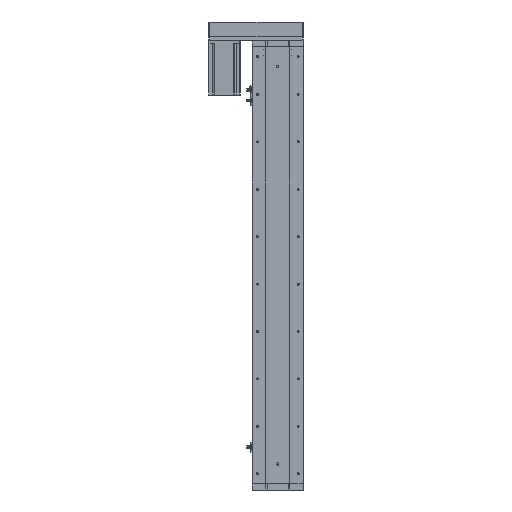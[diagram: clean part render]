
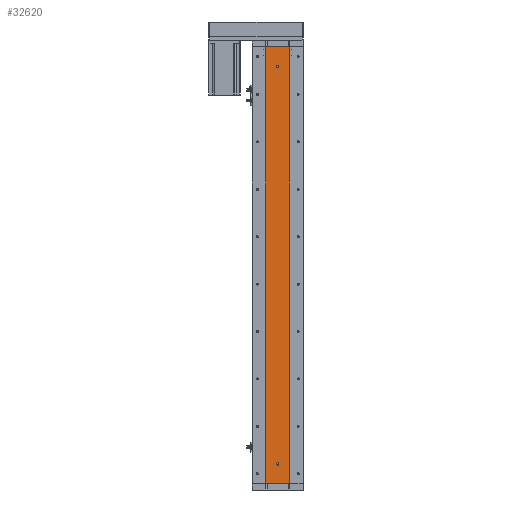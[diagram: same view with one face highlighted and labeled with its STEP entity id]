
A CAD part, left-side view. The second image highlights one B-rep face of the part: STEP entity #32620.
In plain terms, the highlighted planar face has unit normal (-1, 0, 0).
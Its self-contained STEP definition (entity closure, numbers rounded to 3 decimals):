
#244 = ORIENTED_EDGE ( 'NONE', *, *, #45910, .F. ) ;
#2626 = VERTEX_POINT ( 'NONE', #18674 ) ;
#2704 = VERTEX_POINT ( 'NONE', #43810 ) ;
#5352 = VERTEX_POINT ( 'NONE', #35743 ) ;
#6191 = AXIS2_PLACEMENT_3D ( 'NONE', #9829, #36427, #13645 ) ;
#6458 = FACE_OUTER_BOUND ( 'NONE', #14776, .T. ) ;
#6633 = DIRECTION ( 'NONE',  ( 0., 0., -1. ) ) ;
#6950 = CARTESIAN_POINT ( 'NONE',  ( -24.994, 0., 1056. ) ) ;
#8640 = ORIENTED_EDGE ( 'NONE', *, *, #28407, .T. ) ;
#8668 = VECTOR ( 'NONE', #25092, 1000. ) ;
#9404 = EDGE_LOOP ( 'NONE', ( #244, #45664 ) ) ;
#9782 = AXIS2_PLACEMENT_3D ( 'NONE', #21604, #48221, #25476 ) ;
#9829 = CARTESIAN_POINT ( 'NONE',  ( -24.994, 0., 50. ) ) ;
#9872 = DIRECTION ( 'NONE',  ( 1., 0., 0. ) ) ;
#10590 = CARTESIAN_POINT ( 'NONE',  ( -24.994, -29.785, 0. ) ) ;
#10765 = DIRECTION ( 'NONE',  ( 0., 0., 1. ) ) ;
#10938 = EDGE_CURVE ( 'NONE', #2626, #2704, #18812, .T. ) ;
#10979 = VERTEX_POINT ( 'NONE', #32919 ) ;
#11056 = LINE ( 'NONE', #11859, #19963 ) ;
#11859 = CARTESIAN_POINT ( 'NONE',  ( -24.994, 29.785, 1106. ) ) ;
#13129 = CARTESIAN_POINT ( 'NONE',  ( -24.994, 29.785, 0. ) ) ;
#13262 = CIRCLE ( 'NONE', #9782, 3. ) ;
#13645 = DIRECTION ( 'NONE',  ( 0., 0., 1. ) ) ;
#14776 = EDGE_LOOP ( 'NONE', ( #8640, #21555, #39439, #42065 ) ) ;
#15019 = VECTOR ( 'NONE', #35932, 1000. ) ;
#16595 = FACE_BOUND ( 'NONE', #28769, .T. ) ;
#16740 = EDGE_CURVE ( 'NONE', #20919, #10979, #13262, .T. ) ;
#17338 = PLANE ( 'NONE',  #41267 ) ;
#17681 = VERTEX_POINT ( 'NONE', #21807 ) ;
#17705 = CARTESIAN_POINT ( 'NONE',  ( -24.994, 0., 1056. ) ) ;
#18674 = CARTESIAN_POINT ( 'NONE',  ( -24.994, 29.785, 1106. ) ) ;
#18812 = LINE ( 'NONE', #21250, #8668 ) ;
#19963 = VECTOR ( 'NONE', #38412, 1000. ) ;
#20919 = VERTEX_POINT ( 'NONE', #24152 ) ;
#21250 = CARTESIAN_POINT ( 'NONE',  ( -24.994, 29.785, 1106. ) ) ;
#21480 = DIRECTION ( 'NONE',  ( 0., 0., 1. ) ) ;
#21555 = ORIENTED_EDGE ( 'NONE', *, *, #46066, .F. ) ;
#21604 = CARTESIAN_POINT ( 'NONE',  ( -24.994, 0., 50. ) ) ;
#21807 = CARTESIAN_POINT ( 'NONE',  ( -24.994, 0., 1053. ) ) ;
#22605 = ORIENTED_EDGE ( 'NONE', *, *, #47567, .F. ) ;
#24152 = CARTESIAN_POINT ( 'NONE',  ( -24.994, 0., 47. ) ) ;
#25092 = DIRECTION ( 'NONE',  ( 0., 0., -1. ) ) ;
#25217 = CIRCLE ( 'NONE', #29244, 3. ) ;
#25476 = DIRECTION ( 'NONE',  ( 0., 0., 1. ) ) ;
#25903 = VERTEX_POINT ( 'NONE', #34401 ) ;
#26730 = FACE_BOUND ( 'NONE', #9404, .T. ) ;
#27044 = EDGE_CURVE ( 'NONE', #2626, #5352, #11056, .T. ) ;
#28407 = EDGE_CURVE ( 'NONE', #2704, #48843, #35249, .T. ) ;
#28769 = EDGE_LOOP ( 'NONE', ( #22605, #30979 ) ) ;
#28989 = CIRCLE ( 'NONE', #6191, 3. ) ;
#29244 = AXIS2_PLACEMENT_3D ( 'NONE', #17705, #44319, #21480 ) ;
#30979 = ORIENTED_EDGE ( 'NONE', *, *, #38474, .F. ) ;
#31961 = VECTOR ( 'NONE', #6633, 1000. ) ;
#32620 = ADVANCED_FACE ( 'NONE', ( #16595, #26730, #6458 ), #17338, .F. ) ;
#32657 = CARTESIAN_POINT ( 'NONE',  ( -24.994, 29.785, 1106. ) ) ;
#32919 = CARTESIAN_POINT ( 'NONE',  ( -24.994, 0., 53. ) ) ;
#33576 = DIRECTION ( 'NONE',  ( -1., 0., 0. ) ) ;
#34185 = AXIS2_PLACEMENT_3D ( 'NONE', #6950, #33576, #10765 ) ;
#34401 = CARTESIAN_POINT ( 'NONE',  ( -24.994, 0., 1059. ) ) ;
#35249 = LINE ( 'NONE', #13129, #15019 ) ;
#35743 = CARTESIAN_POINT ( 'NONE',  ( -24.994, -29.785, 1106. ) ) ;
#35932 = DIRECTION ( 'NONE',  ( 0., -1., 0. ) ) ;
#36427 = DIRECTION ( 'NONE',  ( -1., 0., 0. ) ) ;
#36463 = DIRECTION ( 'NONE',  ( 0., 0., -1. ) ) ;
#38412 = DIRECTION ( 'NONE',  ( 0., -1., 0. ) ) ;
#38474 = EDGE_CURVE ( 'NONE', #17681, #25903, #45633, .T. ) ;
#39439 = ORIENTED_EDGE ( 'NONE', *, *, #27044, .F. ) ;
#40910 = CARTESIAN_POINT ( 'NONE',  ( -24.994, -29.785, 1106. ) ) ;
#41267 = AXIS2_PLACEMENT_3D ( 'NONE', #32657, #9872, #36463 ) ;
#42065 = ORIENTED_EDGE ( 'NONE', *, *, #10938, .T. ) ;
#43277 = LINE ( 'NONE', #40910, #31961 ) ;
#43810 = CARTESIAN_POINT ( 'NONE',  ( -24.994, 29.785, 0. ) ) ;
#44319 = DIRECTION ( 'NONE',  ( -1., 0., 0. ) ) ;
#45633 = CIRCLE ( 'NONE', #34185, 3. ) ;
#45664 = ORIENTED_EDGE ( 'NONE', *, *, #16740, .F. ) ;
#45910 = EDGE_CURVE ( 'NONE', #10979, #20919, #28989, .T. ) ;
#46066 = EDGE_CURVE ( 'NONE', #5352, #48843, #43277, .T. ) ;
#47567 = EDGE_CURVE ( 'NONE', #25903, #17681, #25217, .T. ) ;
#48221 = DIRECTION ( 'NONE',  ( -1., 0., 0. ) ) ;
#48843 = VERTEX_POINT ( 'NONE', #10590 ) ;
